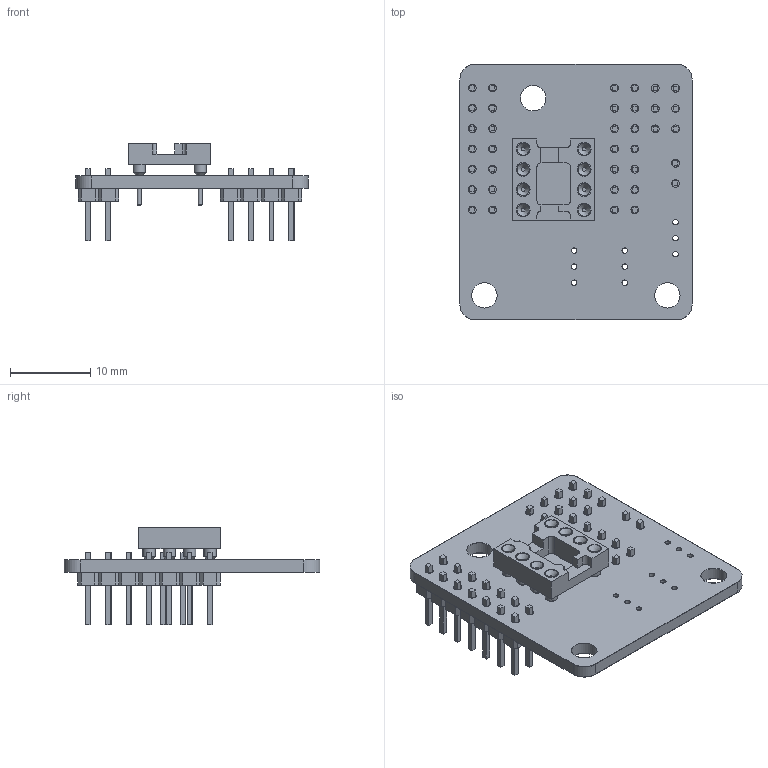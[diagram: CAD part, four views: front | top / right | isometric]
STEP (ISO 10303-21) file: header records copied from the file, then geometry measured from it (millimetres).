
FILE_DESCRIPTION(('KiCad electronic assembly'),'2;1');
FILE_NAME('xiaodmx.step','2026-05-23T10:50:16',('Pcbnew'),('Kicad'), 'Open CASCADE STEP processor 7.8','KiCad to STEP converter','Unknown' );
FILE_SCHEMA(('AUTOMOTIVE_DESIGN { 1 0 10303 214 1 1 1 1 }'));
Length unit declared in the file: millimetre
Products named in the file (15): xiaodmx 1; DIP-8_W7.62mm_Socket; PinHeader-01x07_P2.54mm_Vertical_THT; xiaodmx 1.2.1; xiaodmx 1.2.2; PinHeader-01x02_P2.54mm_Vertical_THT; xiaodmx 1.5.1; xiaodmx 1.5.2; PinHeader-01x03_P2.54mm_Vertical_THT; xiaodmx 1.6.1; xiaodmx 1.6.2; xiaodmx 1.6.3; xiaodmx_soldermask; xiaodmx_PCB
Assembly tree (18 placements, depth 3):
  xiaodmx 1
    DIP-8_W7.62mm_Socket
    PinHeader-01x07_P2.54mm_Vertical_THT  x4
      xiaodmx 1.2.1
      xiaodmx 1.2.2
    PinHeader-01x02_P2.54mm_Vertical_THT
      xiaodmx 1.5.1
      xiaodmx 1.5.2
    PinHeader-01x03_P2.54mm_Vertical_THT  x2
      xiaodmx 1.6.1
      xiaodmx 1.6.2
      xiaodmx 1.6.3
    xiaodmx_soldermask
    xiaodmx_soldermask
    xiaodmx_PCB
Bounding box: 29.03 x 31.98 x 12.19 mm (x, y, z)
Volume: 1951.4 mm3; surface area: 5949.7 mm2
Topology: 38 solids, 40 shells, 916 faces, 2314 edges, 1587 vertices
Faces by surface type: plane 792, cylinder 100, cone 24
Full cylindrical faces by diameter (mm): 0.508 x16, 0.7 x9, 0.8 x8, 1 x36, 1.524 x8, 1.724 x8, 3.2 x3
Entity records: 15303 total; most frequent: CARTESIAN_POINT 2436, DIRECTION 2424, ORIENTED_EDGE 2172, EDGE_CURVE 1162, VERTEX_POINT 819, LINE 810, VECTOR 810, AXIS2_PLACEMENT_3D 807
